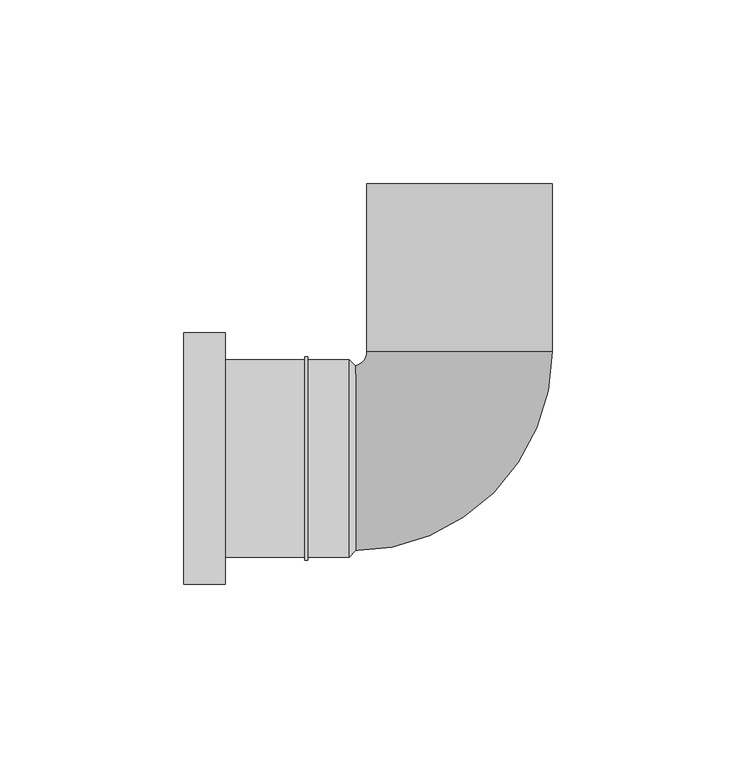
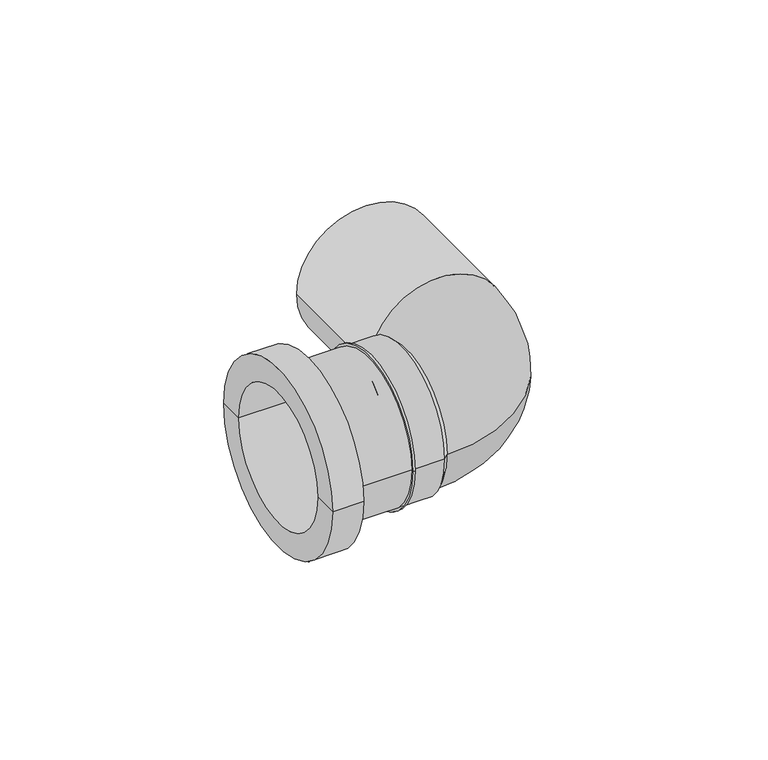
"""IFC4 building model written with IfcOpenShell, lengths in millimetres: pipe fitting geometry, UN_PIF_PP bend S-Sp_PipeLife : Black, var. DN/OD (max. ø125)."""

from ifc_helpers import new_model, si_unit, point, frame, origin, place, context, project, spatial, polyline, circle_curve, ellipse_curve, trimmed, source, transform, mapped, element, save
from ifc_brep_helpers import plane_surface, cylinder_surface, revolved_surface, advanced_brep


def pipe_fitting_b924875e(model_context):
    return source(origin(), model_context, "Body", "AdvancedBrep", [
        advanced_brep(
        [(-28.15, 25.0, 0.0), (-28.15, -25.0, 0.0), (-30.0, -26.85, 0.0), (-30.0, 26.85, 0.0), (-74.9, 34.15, 0.0), (-74.9, -34.15, 0.0), (-74.9, -25.0, 0.0), (-74.9, 25.0, 0.0), (-63.675, 34.15, 0.0), (-63.675, -34.15, 0.0), (-63.675, 26.85, 0.0), (-63.675, -26.85, 0.0), (-42.075, 26.85, 0.0), (-42.075, -26.85, 0.0), (-42.075, 27.7, 0.0), (-42.075, -27.7, 0.0), (-41.225, 27.7, 0.0), (-41.225, -27.7, 0.0), (-41.225, 26.85, 0.0), (-41.225, -26.85, 0.0)],
        [
            (0, 1, circle_curve(frame((-28.15, 0.0, 0.0), z_axis=(-1.0, 0.0, 0.0), x_axis=(0.0, -1.0, 0.0)), 25.0)),
            (1, 2),
            (2, 3, circle_curve(frame((-30.0, 0.0, 0.0), z_axis=(1.0, 0.0, 0.0), x_axis=(0.0, -1.0, 0.0)), 26.85)),
            (3, 0),
            (1, 0, circle_curve(frame((-28.15, 0.0, 0.0), z_axis=(-1.0, 0.0, 0.0), x_axis=(0.0, -1.0, 0.0)), 25.0)),
            (3, 2, circle_curve(frame((-30.0, 0.0, 0.0), z_axis=(1.0, 0.0, 0.0), x_axis=(0.0, -1.0, 0.0)), 26.85)),
            (4, 5, circle_curve(frame((-74.9, 0.0, 0.0), z_axis=(-1.0, 0.0, 0.0), x_axis=(0.0, -1.0, 0.0)), 34.15)),
            (5, 6),
            (6, 7, circle_curve(frame((-74.9, 0.0, 0.0), z_axis=(1.0, 0.0, 0.0), x_axis=(0.0, -1.0, 0.0)), 25.0)),
            (7, 4),
            (5, 4, circle_curve(frame((-74.9, 0.0, 0.0), z_axis=(-1.0, 0.0, 0.0), x_axis=(0.0, -1.0, 0.0)), 34.15)),
            (7, 6, circle_curve(frame((-74.9, 0.0, 0.0), z_axis=(1.0, 0.0, 0.0), x_axis=(0.0, -1.0, 0.0)), 25.0)),
            (8, 9, circle_curve(frame((-63.675, 0.0, 0.0), z_axis=(-1.0, 0.0, 0.0), x_axis=(0.0, -1.0, 0.0)), 34.15)),
            (9, 5),
            (4, 8),
            (9, 8, circle_curve(frame((-63.675, 0.0, 0.0), z_axis=(-1.0, 0.0, 0.0), x_axis=(0.0, -1.0, 0.0)), 34.15)),
            (10, 11, circle_curve(frame((-63.675, 0.0, 0.0), z_axis=(-1.0, 0.0, 0.0), x_axis=(0.0, -1.0, 0.0)), 26.85)),
            (11, 9),
            (8, 10),
            (11, 10, circle_curve(frame((-63.675, 0.0, 0.0), z_axis=(-1.0, 0.0, 0.0), x_axis=(0.0, -1.0, 0.0)), 26.85)),
            (12, 13, circle_curve(frame((-42.075, 0.0, 0.0), z_axis=(-1.0, 0.0, 0.0), x_axis=(0.0, -1.0, 0.0)), 26.85)),
            (13, 11),
            (10, 12),
            (13, 12, circle_curve(frame((-42.075, 0.0, 0.0), z_axis=(-1.0, 0.0, 0.0), x_axis=(0.0, -1.0, 0.0)), 26.85)),
            (14, 15, circle_curve(frame((-42.075, 0.0, 0.0), z_axis=(-1.0, 0.0, 0.0), x_axis=(0.0, -1.0, 0.0)), 27.7)),
            (15, 13),
            (12, 14),
            (15, 14, circle_curve(frame((-42.075, 0.0, 0.0), z_axis=(-1.0, 0.0, 0.0), x_axis=(0.0, -1.0, 0.0)), 27.7)),
            (16, 17, circle_curve(frame((-41.225, 0.0, 0.0), z_axis=(-1.0, 0.0, 0.0), x_axis=(0.0, -1.0, 0.0)), 27.7)),
            (17, 15),
            (14, 16),
            (17, 16, circle_curve(frame((-41.225, 0.0, 0.0), z_axis=(-1.0, 0.0, 0.0), x_axis=(0.0, -1.0, 0.0)), 27.7)),
            (18, 19, circle_curve(frame((-41.225, 0.0, 0.0), z_axis=(-1.0, 0.0, 0.0), x_axis=(0.0, -1.0, 0.0)), 26.85)),
            (19, 17),
            (16, 18),
            (19, 18, circle_curve(frame((-41.225, 0.0, 0.0), z_axis=(-1.0, 0.0, 0.0), x_axis=(0.0, -1.0, 0.0)), 26.85)),
            (2, 19),
            (18, 3),
            (6, 1),
            (0, 7),
        ],
        [
            revolved_surface(polyline([(-30.0, -26.85, 0.0), (-28.15, -25.0, 0.0)]), (-74.9, 0.0, 0.0), (1.0, 0.0, 0.0)),
            plane_surface(frame((-74.9, 0.0, 0.0), z_axis=(-1.0, 0.0, 0.0), x_axis=(0.0, -1.0, 0.0))),
            cylinder_surface(frame((-74.9, 0.0, 0.0), z_axis=(1.0, 0.0, 0.0), x_axis=(0.0, -1.0, 0.0)), 34.15),
            plane_surface(frame((-63.675, 0.0, 0.0), z_axis=(1.0, 0.0, 0.0), x_axis=(0.0, -1.0, 0.0))),
            cylinder_surface(frame((-74.9, 0.0, 0.0), z_axis=(1.0, 0.0, 0.0), x_axis=(0.0, -1.0, 0.0)), 26.85),
            plane_surface(frame((-42.075, 0.0, 0.0), z_axis=(-1.0, 0.0, 0.0), x_axis=(0.0, -1.0, 0.0))),
            cylinder_surface(frame((-74.9, 0.0, 0.0), z_axis=(1.0, 0.0, 0.0), x_axis=(0.0, -1.0, 0.0)), 27.7),
            plane_surface(frame((-41.225, 0.0, 0.0), z_axis=(1.0, 0.0, 0.0), x_axis=(0.0, -1.0, 0.0))),
            revolved_surface(polyline([(-28.15, -25.0, 0.0), (-74.9, -25.0, 0.0)]), (-74.9, 0.0, 0.0), (1.0, 0.0, 0.0)),
        ],
        [
            (0, [[1, 2, 3, 4]]),
            (0, [[5, -4, 6, -2]]),
            (1, [[7, 8, 9, 10]]),
            (1, [[11, -10, 12, -8]]),
            (2, [[13, 14, -7, 15]]),
            (2, [[16, -15, -11, -14]]),
            (3, [[17, 18, -13, 19]]),
            (3, [[20, -19, -16, -18]]),
            (4, [[21, 22, -17, 23]]),
            (4, [[24, -23, -20, -22]]),
            (5, [[25, 26, -21, 27]]),
            (5, [[28, -27, -24, -26]]),
            (6, [[29, 30, -25, 31]]),
            (6, [[32, -31, -28, -30]]),
            (7, [[33, 34, -29, 35]]),
            (7, [[36, -35, -32, -34]]),
            (4, [[-3, 37, -33, 38]]),
            (4, [[-6, -38, -36, -37]]),
            (8, [[-9, 39, -1, 40]]),
            (8, [[-12, -40, -5, -39]]),
        ],
    ),
        advanced_brep(
        [(-30.0, -25.15, 0.0), (-30.0, 25.15, 0.0), (-29.0, -25.15, 0.0), (-29.0, 25.15, 0.0), (-25.15, 29.0, 0.0), (25.15, 29.0, 0.0), (25.15, 74.6, 0.0), (-25.15, 74.6, 0.0)],
        [
            (0, 1, circle_curve(frame((-30.0, 0.0, 0.0), z_axis=(-1.0, 0.0, 0.0), x_axis=(0.0, 1.0, 0.0)), 25.15)),
            (1, 0, circle_curve(frame((-30.0, 0.0, 0.0), z_axis=(-1.0, 0.0, 0.0), x_axis=(0.0, 1.0, 0.0)), 25.15)),
            (0, 2),
            (2, 3, circle_curve(frame((-29.0, 0.0, 0.0), z_axis=(-1.0, 0.0, 0.0), x_axis=(0.0, 1.0, 0.0)), 25.15)),
            (3, 1),
            (3, 2, circle_curve(frame((-29.0, 0.0, 0.0), z_axis=(-1.0, 0.0, 0.0), x_axis=(0.0, 1.0, 0.0)), 25.15)),
            (4, 3, circle_curve(frame((-29.0, 29.0, 0.0), z_axis=(0.0, 0.0, -1.0), x_axis=(0.0, -1.0, 0.0)), 3.85)),
            (2, 5, circle_curve(frame((-29.0, 29.0, 0.0), z_axis=(0.0, 0.0, 1.0), x_axis=(0.0, -1.0, 0.0)), 54.15)),
            (5, 4, circle_curve(frame((0.0, 29.0, 0.0), z_axis=(0.0, -1.0, 0.0), x_axis=(-1.0, 0.0, 0.0)), 25.15)),
            (4, 5, circle_curve(frame((0.0, 29.0, 0.0), z_axis=(0.0, -1.0, 0.0), x_axis=(-1.0, 0.0, 0.0)), 25.15)),
            (6, 7, circle_curve(frame((0.0, 74.6, 0.0), z_axis=(0.0, 1.0, 0.0), x_axis=(-1.0, 0.0, 0.0)), 25.15)),
            (7, 6, circle_curve(frame((0.0, 74.6, 0.0), z_axis=(0.0, 1.0, 0.0), x_axis=(-1.0, 0.0, 0.0)), 25.15)),
            (5, 6),
            (7, 4),
        ],
        [
            plane_surface(frame((-30.0, 0.0, 0.0), z_axis=(-1.0, 0.0, 0.0), x_axis=(0.0, 0.0, 1.0))),
            cylinder_surface(frame((-30.0, 0.0, 0.0), z_axis=(-1.0, 0.0, 0.0), x_axis=(0.0, 1.0, 0.0)), 25.15),
            revolved_surface(trimmed(ellipse_curve(frame((-29.0, 0.0, 0.0), z_axis=(-1.0, 0.0, 0.0), x_axis=(0.0, 1.0, 0.0)), 25.15, 25.15), [point((-29.0, -25.15, 0.0))], [point((-29.0, 25.15, 0.0))], True, "CARTESIAN"), (-29.0, 29.0, 0.0), (0.0, 0.0, 1.0)),
            revolved_surface(trimmed(ellipse_curve(frame((-29.0, 0.0, 0.0), z_axis=(-1.0, 0.0, 0.0), x_axis=(0.0, 1.0, 0.0)), 25.15, 25.15), [point((-29.0, 25.15, 0.0))], [point((-29.0, -25.15, 0.0))], True, "CARTESIAN"), (-29.0, 29.0, 0.0), (0.0, 0.0, 1.0)),
            plane_surface(frame((0.0, 74.6, 0.0), z_axis=(0.0, 1.0, 0.0), x_axis=(0.0, 0.0, 1.0))),
            cylinder_surface(frame((0.0, 29.0, 0.0), z_axis=(0.0, -1.0, 0.0), x_axis=(-1.0, 0.0, 0.0)), 25.15),
        ],
        [
            (0, [[1, 2]]),
            (1, [[-1, 3, 4, 5]]),
            (1, [[-2, -5, 6, -3]]),
            (2, [[7, -4, 8, 9]]),
            (3, [[-8, -6, -7, 10]]),
            (4, [[11, 12]]),
            (5, [[-9, 13, -12, 14]]),
            (5, [[-10, -14, -11, -13]]),
        ],
    ),
    ])


if __name__ == "__main__":
    model = new_model("IFC4")
    model_context = context("Model", 3, world=origin())
    ifc_project = project(units=[si_unit("LENGTHUNIT", "METRE", prefix="MILLI")], contexts=[model_context])
    site = spatial("IfcSite", under=ifc_project)
    building = spatial("IfcBuilding", under=site)
    placement = place(None, origin())
    pipe_fitting_shape = pipe_fitting_b924875e(model_context)
    element("IfcPipeFitting", 1, ObjectType="UN_PIF_PP bend S-Sp_PipeLife : Black, var. DN/OD (max. ø125)", at=placement, inside=building, context=model_context, shape_type="MappedRepresentation", body=[
        mapped(pipe_fitting_shape, transform((0.0, 0.0, 0.0), x_axis=(1.0, 0.0, 0.0), y_axis=(0.0, 1.0, 0.0), z_axis=(0.0, 0.0, 1.0))),
    ])
    save(model, "model.ifc")
